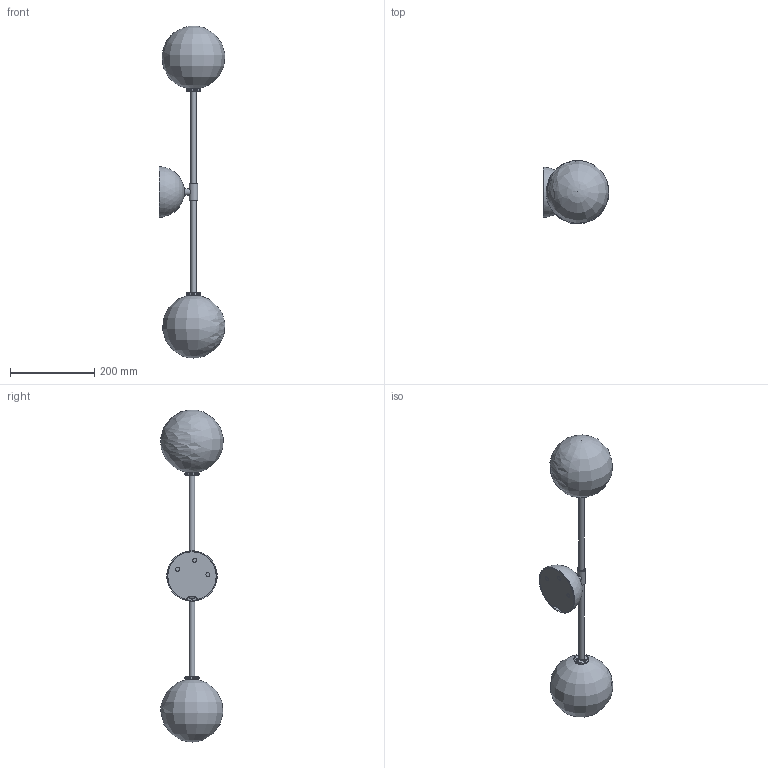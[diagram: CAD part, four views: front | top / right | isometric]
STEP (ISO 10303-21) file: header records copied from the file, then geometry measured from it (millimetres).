
FILE_DESCRIPTION(/* description */ (''),/* implementation_level */ '2;1');
FILE_NAME(/* name */ 'T:\B071 Miron Wall Sconce\Pliki bryłowe handlowe\B071 Miron 3D files\B071 Miron.stp',/* time_stamp */ '2022-01-19T11:52:22+01:00',/* author */ ('Mariusz Awariusz'),/* organization */ (''),/* preprocessor_version */ 'ST-DEVELOPER v18.1',/* originating_system */ 'Autodesk Inventor 2022',/* authorisation */ '');
FILE_SCHEMA (('AUTOMOTIVE_DESIGN { 1 0 10303 214 3 1 1 }'));
Length unit declared in the file: millimetre
Products named in the file (1): B071 Miron Wall Sconce UL V2_na potrzeby plików 3D_jako część
Bounding box: 156.77 x 149.56 x 790.25 mm (x, y, z)
Volume: 425613.7 mm3; surface area: 368742 mm2
Topology: 2 solids, 4 shells, 163 faces, 322 edges, 200 vertices
Faces by surface type: cylinder 60, plane 52, cone 34, torus 9, sphere 4, bspline 4
Full cylindrical faces by diameter (mm): 2.693 x6, 3 x12, 3.4 x6, 4 x1, 5 x3, 5.5 x6, 11.6 x2, 13 x4, 16 x1, 20 x2, 25.221 x2, 33 x2, 35 x2
Entity records: 4515 total; most frequent: CARTESIAN_POINT 968, DIRECTION 825, ORIENTED_EDGE 636, AXIS2_PLACEMENT_3D 353, EDGE_CURVE 318, EDGE_LOOP 202, VERTEX_POINT 200, CIRCLE 193
